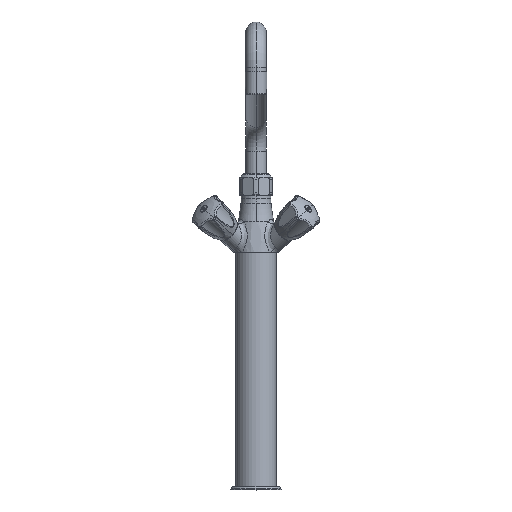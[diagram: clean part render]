
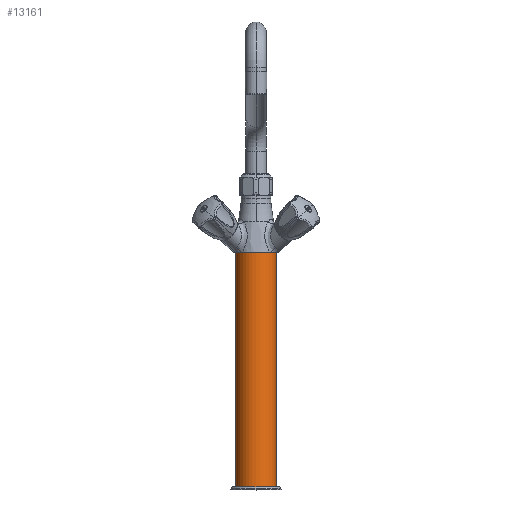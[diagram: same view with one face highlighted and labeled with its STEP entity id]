
A CAD part, top view. The second image highlights one B-rep face of the part: STEP entity #13161.
In plain terms, the highlighted cylindrical face has radius 26 mm (diameter 52 mm), a partial arc.
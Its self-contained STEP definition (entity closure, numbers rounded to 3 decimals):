
#229=CARTESIAN_POINT('',(0.,15.,0.));
#230=DIRECTION('',(0.,1.,0.));
#231=DIRECTION('',(-1.,0.,0.));
#232=AXIS2_PLACEMENT_3D('',#229,#230,#231);
#3957=DIRECTION('',(0.,1.,0.));
#3958=VECTOR('',#3957,300.);
#3959=CARTESIAN_POINT('',(26.,-285.,0.));
#3960=LINE('',#3959,#3958);
#3961=DIRECTION('',(0.,1.,0.));
#3962=VECTOR('',#3961,300.);
#3963=CARTESIAN_POINT('',(-26.,-285.,0.));
#3964=LINE('',#3963,#3962);
#3970=CARTESIAN_POINT('',(0.,-285.,0.));
#3971=DIRECTION('',(0.,1.,0.));
#3972=DIRECTION('',(-1.,0.,0.));
#3973=AXIS2_PLACEMENT_3D('',#3970,#3971,#3972);
#6384=CARTESIAN_POINT('',(26.,15.,0.));
#6385=CARTESIAN_POINT('',(-26.,15.,0.));
#6386=VERTEX_POINT('',#6384);
#6387=VERTEX_POINT('',#6385);
#6388=CARTESIAN_POINT('',(26.,-285.,0.));
#6389=CARTESIAN_POINT('',(-26.,-285.,0.));
#6390=VERTEX_POINT('',#6388);
#6391=VERTEX_POINT('',#6389);
#13149=CARTESIAN_POINT('',(0.,-300.,0.));
#13150=DIRECTION('',(0.,1.,0.));
#13151=DIRECTION('',(1.,0.,0.));
#13152=AXIS2_PLACEMENT_3D('',#13149,#13150,#13151);
#13153=CYLINDRICAL_SURFACE('',#13152,26.);
#13154=ORIENTED_EDGE('',*,*,#6719,.T.);
#13155=ORIENTED_EDGE('',*,*,#13137,.F.);
#13157=ORIENTED_EDGE('',*,*,#13156,.F.);
#13158=ORIENTED_EDGE('',*,*,#13133,.T.);
#13159=EDGE_LOOP('',(#13154,#13155,#13157,#13158));
#13160=FACE_OUTER_BOUND('',#13159,.F.);
#233=CIRCLE('',#232,26.);
#3974=CIRCLE('',#3973,26.);
#6719=EDGE_CURVE('',#6387,#6386,#233,.T.);
#13133=EDGE_CURVE('',#6391,#6387,#3964,.T.);
#13137=EDGE_CURVE('',#6390,#6386,#3960,.T.);
#13156=EDGE_CURVE('',#6391,#6390,#3974,.T.);
#13161=ADVANCED_FACE('',(#13160),#13153,.T.);
